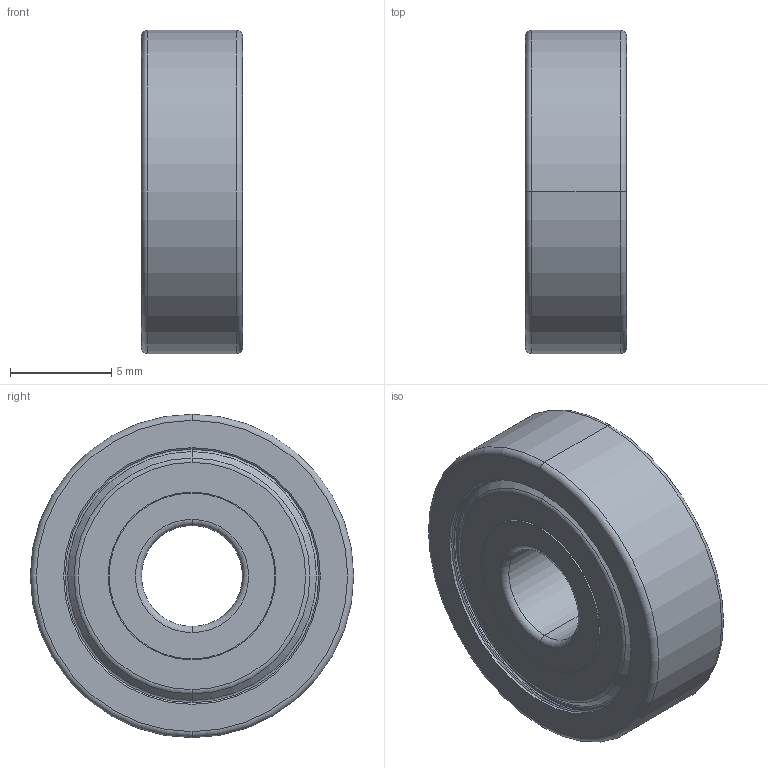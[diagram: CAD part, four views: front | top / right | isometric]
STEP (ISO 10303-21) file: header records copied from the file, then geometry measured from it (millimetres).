
FILE_DESCRIPTION((''),'2;1');
FILE_NAME('625ZZ-EA016','2025-12-19T16:33:05',('qinghui.yi'),(''),'CREO PARAMETRIC BY PTC INC, 2019164','CREO PARAMETRIC BY PTC INC, 2019164','');
FILE_SCHEMA(('CONFIG_CONTROL_DESIGN','SHAPE_APPEARANCE_LAYERS_GROUPS'));
Length unit declared in the file: millimetre
Products named in the file (1): 625ZZ-EA016
Bounding box: 5 x 16 x 16 mm (x, y, z)
Volume: 543.7 mm3; surface area: 1221.5 mm2
Topology: 2 solids, 2 shells, 88 faces, 180 edges, 106 vertices
Faces by surface type: torus 34, cylinder 24, cone 16, plane 14
Entity records: 2595 total; most frequent: DIRECTION 496, CARTESIAN_POINT 374, ORIENTED_EDGE 360, AXIS2_PLACEMENT_3D 228, COLOUR_RGB 196, EDGE_CURVE 180, CIRCLE 140, VERTEX_POINT 106
